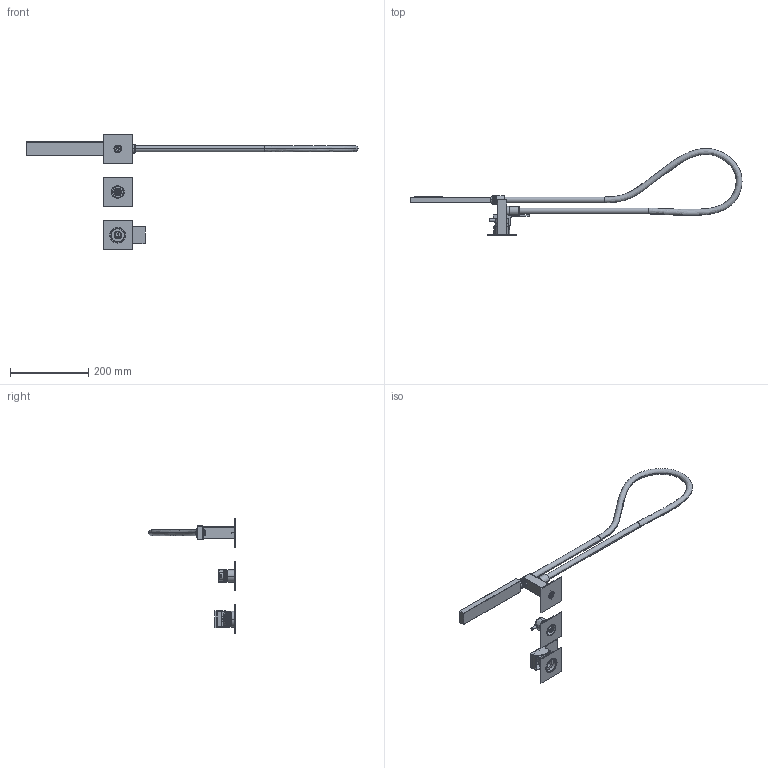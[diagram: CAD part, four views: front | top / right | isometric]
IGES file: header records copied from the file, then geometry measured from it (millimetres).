
Start section:  PTC IGES file: 3d_sw0002.igs
Global section: file name: 3d_sw0002.igs; native system: Creo Parametric by PTC Inc.; preprocessor: 2022014; author: volponeff; organization: Unknown; date: 20241001.111227; units: millimetre
Bounding box: 846.21 x 221.15 x 295 mm (x, y, z)
Surface area: 216593.3 mm2 (no closed solid volume)
Topology: 0 solids, 0 shells, 1865 faces, 9290 edges, 9264 vertices
Faces by surface type: revolution 1248, bspline 617
